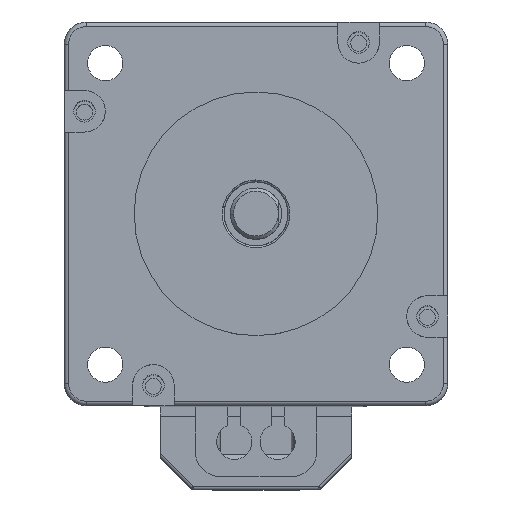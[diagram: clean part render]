
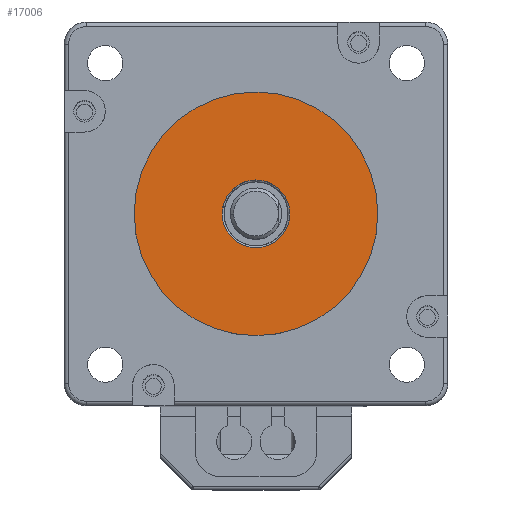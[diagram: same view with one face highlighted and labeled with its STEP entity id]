
A CAD part, top view. The second image highlights one B-rep face of the part: STEP entity #17006.
In plain terms, the highlighted planar face has unit normal (0, 0, 1).
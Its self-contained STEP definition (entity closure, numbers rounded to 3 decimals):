
#89 = EDGE_CURVE ( 'NONE', #20493, #4281, #23020, .T. ) ;
#2142 = DIRECTION ( 'NONE',  ( 1., 0., 0. ) ) ;
#2412 = AXIS2_PLACEMENT_3D ( 'NONE', #20017, #7444, #25927 ) ;
#4281 = VERTEX_POINT ( 'NONE', #6047 ) ;
#5533 = ORIENTED_EDGE ( 'NONE', *, *, #18745, .T. ) ;
#5618 = CARTESIAN_POINT ( 'NONE',  ( -19.05, 0., 13.3 ) ) ;
#6019 = VERTEX_POINT ( 'NONE', #5618 ) ;
#6047 = CARTESIAN_POINT ( 'NONE',  ( -5.3, 0., 13.3 ) ) ;
#7444 = DIRECTION ( 'NONE',  ( 0., 0., 1. ) ) ;
#7662 = EDGE_LOOP ( 'NONE', ( #5533, #24538 ) ) ;
#8275 = PLANE ( 'NONE',  #19327 ) ;
#8585 = DIRECTION ( 'NONE',  ( 1., 0., 0. ) ) ;
#8737 = CARTESIAN_POINT ( 'NONE',  ( 0., 0., 13.3 ) ) ;
#10362 = DIRECTION ( 'NONE',  ( 0., 0., 1. ) ) ;
#10838 = CARTESIAN_POINT ( 'NONE',  ( 0., 0., 13.3 ) ) ;
#12428 = CARTESIAN_POINT ( 'NONE',  ( 0., 0., 13.3 ) ) ;
#12582 = DIRECTION ( 'NONE',  ( 0., 0., 1. ) ) ;
#14448 = AXIS2_PLACEMENT_3D ( 'NONE', #8737, #16886, #25083 ) ;
#15174 = AXIS2_PLACEMENT_3D ( 'NONE', #10838, #12582, #8585 ) ;
#15408 = ORIENTED_EDGE ( 'NONE', *, *, #89, .F. ) ;
#16141 = CIRCLE ( 'NONE', #25571, 19.05 ) ;
#16886 = DIRECTION ( 'NONE',  ( 0., 0., 1. ) ) ;
#17006 = ADVANCED_FACE ( 'NONE', ( #20442, #22457 ), #8275, .T. ) ;
#17736 = CIRCLE ( 'NONE', #2412, 19.05 ) ;
#18374 = CARTESIAN_POINT ( 'NONE',  ( 5.3, 0., 13.3 ) ) ;
#18745 = EDGE_CURVE ( 'NONE', #22446, #6019, #17736, .T. ) ;
#19327 = AXIS2_PLACEMENT_3D ( 'NONE', #12428, #24621, #2142 ) ;
#19578 = EDGE_LOOP ( 'NONE', ( #22925, #15408 ) ) ;
#19768 = EDGE_CURVE ( 'NONE', #4281, #20493, #23286, .T. ) ;
#20017 = CARTESIAN_POINT ( 'NONE',  ( 0., 0., 13.3 ) ) ;
#20442 = FACE_BOUND ( 'NONE', #19578, .T. ) ;
#20493 = VERTEX_POINT ( 'NONE', #18374 ) ;
#22446 = VERTEX_POINT ( 'NONE', #24470 ) ;
#22457 = FACE_OUTER_BOUND ( 'NONE', #7662, .T. ) ;
#22879 = EDGE_CURVE ( 'NONE', #6019, #22446, #16141, .T. ) ;
#22925 = ORIENTED_EDGE ( 'NONE', *, *, #19768, .F. ) ;
#23020 = CIRCLE ( 'NONE', #14448, 5.3 ) ;
#23286 = CIRCLE ( 'NONE', #15174, 5.3 ) ;
#24295 = CARTESIAN_POINT ( 'NONE',  ( 0., 0., 13.3 ) ) ;
#24470 = CARTESIAN_POINT ( 'NONE',  ( 19.05, 0., 13.3 ) ) ;
#24538 = ORIENTED_EDGE ( 'NONE', *, *, #22879, .T. ) ;
#24566 = DIRECTION ( 'NONE',  ( 1., 0., 0. ) ) ;
#24621 = DIRECTION ( 'NONE',  ( 0., 0., 1. ) ) ;
#25083 = DIRECTION ( 'NONE',  ( 1., 0., 0. ) ) ;
#25571 = AXIS2_PLACEMENT_3D ( 'NONE', #24295, #10362, #24566 ) ;
#25927 = DIRECTION ( 'NONE',  ( 1., 0., 0. ) ) ;
